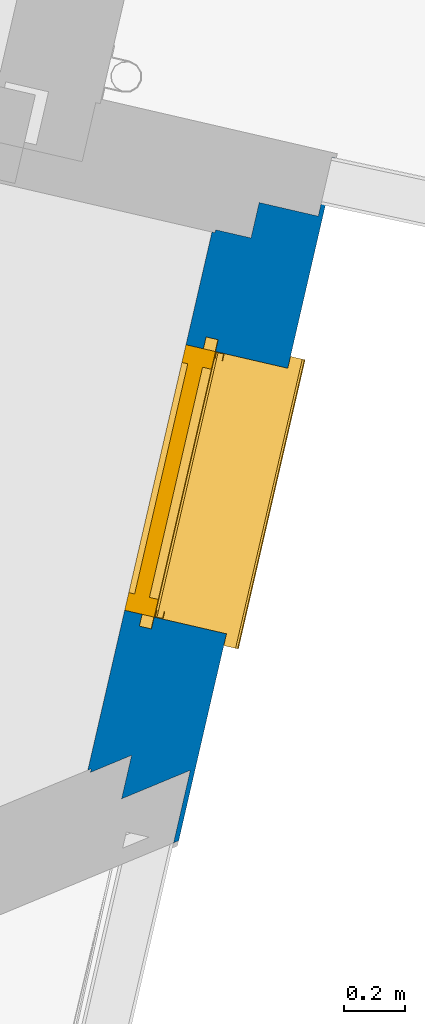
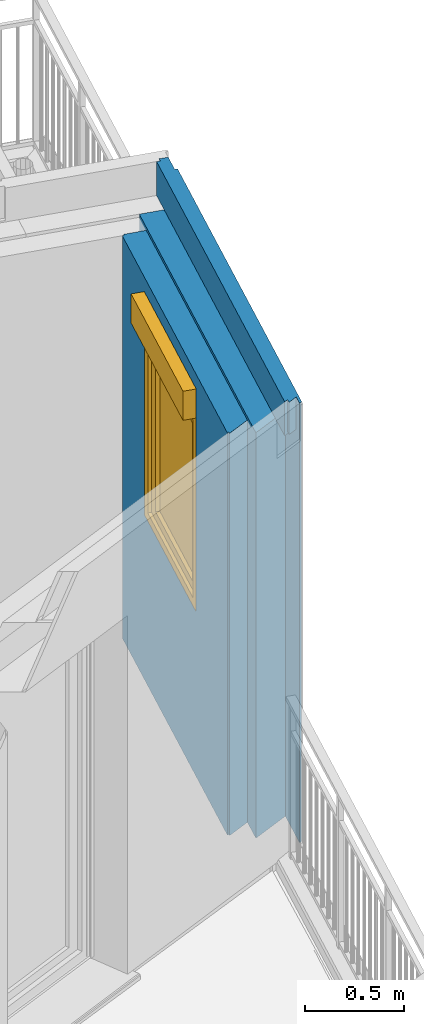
# One storey, part 19 of 90: 1 wall, 1 window, 1 opening.
"""IFC2X3 building model written with IfcOpenShell, lengths in metres."""

from ifc_helpers import new_model, entity, si_unit, converted_unit, derived_unit, money_unit, direction, frame, origin_with_axes, place, context, subcontext, project, spatial, open_shell, faceted_brep, surface_model, source, transform, mapped, material, material_list, type_object, element, fill, save


model = new_model("IFC2X3")

# Units and contexts
model_context = context("Model", 3, precision=1e-05, world=origin_with_axes(), true_north=direction((0.0, 1.0)))
body_context = subcontext(model_context, "Body", "Model", "MODEL_VIEW")
ifc_project = project(units=[si_unit("LENGTHUNIT", "METRE"), si_unit("AREAUNIT", "SQUARE_METRE"), si_unit("VOLUMEUNIT", "CUBIC_METRE"), converted_unit("PLANEANGLEUNIT", "DEGREE", entity("IfcPlaneAngleMeasure", 0.0174532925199), si_unit("PLANEANGLEUNIT", "RADIAN"), dimensions=[0, 0, 0, 0, 0, 0, 0]), si_unit("SOLIDANGLEUNIT", "STERADIAN"), money_unit("EUR"), converted_unit("TIMEUNIT", "Year", entity("IfcTimeMeasure", 31556926.0), si_unit("TIMEUNIT", "SECOND"), dimensions=[0, 0, 1, 0, 0, 0, 0]), si_unit("MASSUNIT", "GRAM", prefix="KILO"), si_unit("THERMODYNAMICTEMPERATUREUNIT", "DEGREE_CELSIUS"), si_unit("LUMINOUSINTENSITYUNIT", "LUMEN"), si_unit("ENERGYUNIT", "JOULE", prefix="MEGA"), derived_unit("THERMALCONDUCTANCEUNIT", [(si_unit("POWERUNIT", "WATT"), 1), (si_unit("LENGTHUNIT", "METRE"), -1), (si_unit("THERMODYNAMICTEMPERATUREUNIT", "KELVIN"), -1)]), derived_unit("SPECIFICHEATCAPACITYUNIT", [(si_unit("ENERGYUNIT", "JOULE"), 1), (si_unit("MASSUNIT", "GRAM", prefix="KILO"), -1), (si_unit("THERMODYNAMICTEMPERATUREUNIT", "KELVIN"), -1)]), derived_unit("MASSDENSITYUNIT", [(si_unit("MASSUNIT", "GRAM", prefix="KILO"), 1), (si_unit("VOLUMEUNIT", "CUBIC_METRE"), -1)])], contexts=[model_context])

# Site, building, storey
site_placement = place(None, origin_with_axes())
site = spatial("IfcSite", under=ifc_project, at=site_placement, Name="Site", CompositionType="ELEMENT")
building_placement = place(site_placement, origin_with_axes())
building = spatial("IfcBuilding", under=site, at=building_placement, Name="Bâtiment", CompositionType="ELEMENT")
storey_placement = place(building_placement, frame((0.0, 0.0, 2.72), z_axis=(0.0, 0.0, 1.0), x_axis=(1.0, 0.0, 0.0)))
storey = spatial("IfcBuildingStorey", under=building, at=storey_placement, Name="R+1", CompositionType="ELEMENT", Elevation=2.72)

# Wall, opening, window
ifc_material_1 = material(Name="Finition ext - Crépis")
ifc_material_2 = material(Name="Béton cellulaire")
ifc_material_3 = material(Name="Mortier")
ifc_material_4 = material(Name="Isolation - Polystyrène expansé")
ifc_material_5 = material(Name="Bloc ELITHERM")
ifc_material_6 = material(Name="Isolation - Polystyrène extrudé")
ifc_material_7 = material(Name="Finition int - Plaque de plâtre")
ifc_material_list = material_list([ifc_material_1, ifc_material_2, ifc_material_3, ifc_material_4, ifc_material_5, ifc_material_6, ifc_material_7])
wall_type = type_object("IfcWallType", Name="Mur ALKERN + planelle 21 345 x 2720", PredefinedType="USERDEFINED")
wall_placement = place(storey_placement, frame((-7.09774602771, -17.8354511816, 0.0), z_axis=(0.0, 0.0, 1.0), x_axis=(-0.224876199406, -0.974387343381, 0.0)))
wall = element("IfcWall", 1, at=wall_placement, inside=storey, type_object=wall_type, material=ifc_material_list, Name="Mue bloc ALKERN isolé", ObjectType="SOLIDWALL", context=body_context, shape_type="Brep", body=[
    faceted_brep([(0.726995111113, -0.0149999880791, 1.02), (0.726995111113, 0.0, 1.02), (0.726995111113, 0.0, 2.22), (0.726995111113, -0.0149999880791, 2.22), (0.726995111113, 0.0, 0.96), (0.726995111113, -0.015, 0.96), (0.140032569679, 0.0, 2.5), (0.159776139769, 0.0, 2.5), (0.174778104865, 0.0, 2.5), (0.174778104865, 0.0, 2.50872065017), (0.174778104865, 0.0, 2.50999999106), (0.174778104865, 0.0, 2.51999999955), (0.174778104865, 0.0, 2.72), (2.32828206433, 0.0, 2.72), (2.32828206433, 0.0, 2.51999999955), (2.32828206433, 0.0, 2.50999999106), (2.32828206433, 0.0, 0.0), (0.175425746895, 0.0, 0.0), (0.175425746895, 0.0, 0.01), (0.165443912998, 0.0, 0.0193762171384), (0.0253866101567, 0.0, 0.0106237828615), (0.0154047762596, 0.0, 0.0), (0.0149999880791, -7.00355062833e-09, 0.0), (0.0149999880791, -7.00355062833e-09, 2.5), (1.62699511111, 0.0, 0.96), (1.62699511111, 0.0, 1.02), (1.62699511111, 0.0, 2.22), (1.62699511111, -0.0149999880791, 2.22), (0.0156476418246, -0.0149999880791, 0.0), (0.0256294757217, -0.0149999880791, 0.0106237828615), (0.165686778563, -0.0149999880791, 0.0193762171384), (0.175668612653, -0.015, 0.01), (0.175668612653, -0.015, 0.0), (2.33899022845, -0.0149999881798, 0.0), (2.33899022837, -0.0149999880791, 2.50999999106), (2.33899022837, -0.0149999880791, 2.51999999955), (2.33899022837, -0.0149999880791, 2.72), (0.17502097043, -0.0149999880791, 2.72), (0.17502097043, -0.0149999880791, 2.51999999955), (0.17502097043, -0.0149999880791, 2.50999999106), (0.17502097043, -0.0149999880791, 2.50872065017), (0.17502097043, -0.0149999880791, 2.5), (0.160019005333, -0.0149999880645, 2.5), (0.140275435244, -0.0149999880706, 2.5), (0.0149999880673, -0.0149999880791, 2.5), (0.0149999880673, -0.0149999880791, 0.0), (1.62699511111, -0.0149999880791, 1.02), (1.62699511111, -0.015, 0.96)], [[[0, 1, 2, 3]], [[4, 1, 0, 5]], [[6, 7, 8, 9, 10, 11, 12, 13, 14, 15, 16, 17, 18, 19, 20, 21, 22, 23], [24, 25, 26, 2, 1, 4]], [[26, 27, 3, 2]], [[28, 29, 30, 31, 32, 33, 34, 35, 36, 37, 38, 39, 40, 41, 42, 43, 44, 45], [5, 0, 3, 27, 46, 47]], [[24, 4, 5, 47]], [[43, 42, 7, 6]], [[42, 41, 8, 7]], [[9, 8, 41, 40]], [[10, 9, 40, 39]], [[11, 10, 39, 38]], [[12, 11, 38, 37]], [[13, 12, 37, 36]], [[13, 36, 35, 14]], [[35, 34, 15, 14]], [[34, 33, 16, 15]], [[33, 32, 17, 16]], [[17, 32, 31, 18]], [[18, 31, 30, 19]], [[19, 30, 29, 20]], [[21, 20, 29, 28]], [[22, 21, 28, 45]], [[23, 22, 45, 44]], [[44, 43, 6, 23]], [[46, 25, 24, 47]], [[25, 46, 27, 26]]]),
    faceted_brep([(2.31428036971, -0.0629999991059, 2.72), (2.28001421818, -0.015, 2.72), (0.0629999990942, -0.015, 2.72), (0.0629999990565, -0.0629999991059, 2.72), (2.28001421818, -0.015, 2.51999999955), (2.31428036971, -0.0629999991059, 2.51999999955), (0.0629999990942, -0.015, 2.51999999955), (0.0629999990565, -0.0629999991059, 2.51999999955)], [[[0, 1, 2, 3]], [[4, 1, 0, 5]], [[1, 4, 6, 2]], [[3, 2, 6, 7]], [[5, 0, 3, 7]], [[4, 5, 7, 6]]]),
    faceted_brep([(2.30398459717, -0.083, 2.52), (2.25544088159, -0.015, 2.52), (0.0829999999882, -0.015, 2.52), (0.0829999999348, -0.083, 2.52), (2.25544088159, -0.015, 2.51), (2.30398459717, -0.083, 2.51), (0.0829999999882, -0.015, 2.51), (0.0829999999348, -0.083, 2.51)], [[[0, 1, 2, 3]], [[4, 1, 0, 5]], [[1, 4, 6, 2]], [[3, 2, 6, 7]], [[5, 0, 3, 7]], [[4, 5, 7, 6]]]),
    faceted_brep([(0.0830000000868, -0.083000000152, 2.72), (2.30398459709, -0.083000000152, 2.72), (2.28970703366, -0.0630000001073, 2.72), (0.0830000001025, -0.0630000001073, 2.72), (0.0830000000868, -0.083000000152, 2.51999999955), (2.30398459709, -0.083000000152, 2.51999999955), (2.28970703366, -0.0630000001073, 2.51999999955), (0.0830000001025, -0.0630000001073, 2.51999999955)], [[[0, 1, 2, 3]], [[4, 5, 1, 0]], [[5, 6, 2, 1]], [[3, 2, 6, 7]], [[4, 0, 3, 7]], [[7, 6, 5, 4]]]),
    faceted_brep([(0.726995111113, -0.214999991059, 1.02), (0.726995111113, -0.214999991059, 0.96), (0.726995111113, -0.015, 0.96), (0.726995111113, -0.015, 1.02), (0.726995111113, -0.015, 2.22), (0.726995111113, -0.214999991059, 2.22), (0.214999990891, -0.214999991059, 2.50999999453), (0.214999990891, -0.214999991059, 0.0), (2.23603250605, -0.214999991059, 0.0), (2.23603250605, -0.214999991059, 2.50999999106), (1.62699511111, -0.214999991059, 2.22), (1.62699511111, -0.214999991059, 1.02), (1.62699511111, -0.214999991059, 0.96), (1.62699511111, -0.015, 0.96), (0.214999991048, -0.015, 0.0), (0.214999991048, -0.015, 2.50999999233), (2.09325687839, -0.015, 2.50999999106), (2.09325687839, -0.015, 0.0), (1.62699511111, -0.015, 1.02), (1.62699511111, -0.015, 2.22), (0.214999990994, -0.0829999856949, 2.50999999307), (2.14180058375, -0.0829999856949, 2.50999999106)], [[[0, 1, 2, 3, 4, 5]], [[6, 7, 8, 9], [1, 0, 5, 10, 11, 12]], [[13, 2, 1, 12]], [[14, 15, 16, 17], [13, 18, 19, 4, 3, 2]], [[19, 10, 5, 4]], [[6, 20, 15, 14, 7]], [[7, 14, 17, 8]], [[8, 17, 16, 21, 9]], [[20, 6, 9, 21]], [[18, 13, 12, 11, 10, 19]], [[15, 20, 21, 16]]]),
    faceted_brep([(0.726995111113, -0.245, 1.02), (0.726995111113, -0.214999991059, 1.02), (0.726995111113, -0.215, 2.22), (0.726995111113, -0.245, 2.22), (0.726995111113, -0.215000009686, 0.96), (0.726995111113, -0.286, 1.02), (0.726995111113, -0.286, 0.96), (0.335000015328, -0.214999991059, 2.49), (2.08859247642, -0.214999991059, 2.49), (2.08859247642, -0.215000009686, 0.0), (0.335000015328, -0.215000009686, 0.0), (1.62699511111, -0.215000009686, 0.96), (1.62699511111, -0.214999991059, 1.02), (1.62699511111, -0.215, 2.22), (1.62699511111, -0.215, 2.4), (0.726995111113, -0.215, 2.4), (0.726995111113, -0.335000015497, 2.4), (0.726995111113, -0.335000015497, 2.22), (0.726995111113, -0.335000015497, 1.02), (1.62699511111, -0.286, 1.02), (1.62699511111, -0.286, 0.96), (0.335000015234, -0.335000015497, 2.49), (2.174257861, -0.335000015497, 2.49), (2.174257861, -0.335000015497, 0.0), (0.335000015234, -0.335000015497, 0.0), (1.62699511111, -0.245, 1.02), (1.62699511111, -0.245, 2.22), (1.62699511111, -0.335000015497, 2.22), (1.62699511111, -0.335000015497, 2.4), (1.62699511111, -0.335000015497, 1.02)], [[[0, 1, 2, 3]], [[4, 1, 0, 5, 6]], [[7, 8, 9, 10], [11, 12, 13, 14, 15, 2, 1, 4]], [[16, 17, 3, 2, 15]], [[5, 0, 3, 17, 18]], [[5, 19, 20, 6]], [[11, 4, 6, 20]], [[8, 7, 21, 22]], [[8, 22, 23, 9]], [[10, 9, 23, 24]], [[21, 7, 10, 24]], [[25, 12, 11, 20, 19]], [[12, 25, 26, 13]], [[26, 27, 28, 14, 13]], [[14, 28, 16, 15]], [[22, 21, 24, 23], [18, 17, 16, 28, 27, 29]], [[19, 5, 18, 29]], [[25, 19, 29, 27, 26]]]),
    faceted_brep([(2.16197122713, -0.335000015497, 0.0), (0.344999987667, -0.335000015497, 0.0), (0.344999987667, -0.335000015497, 2.49), (2.16197122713, -0.335000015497, 2.49), (1.62699511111, -0.335000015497, 2.22), (1.62699511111, -0.335000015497, 2.4), (0.726995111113, -0.335000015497, 2.4), (0.726995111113, -0.335000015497, 2.22), (0.726995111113, -0.335000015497, 1.02), (1.62699511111, -0.335000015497, 1.02), (2.16910998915, -0.34499998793, 0.0), (0.344999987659, -0.34499998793, 0.0), (0.344999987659, -0.34499998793, 2.49), (2.16910998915, -0.34499998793, 2.49), (1.62699511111, -0.34499998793, 2.22), (1.62699511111, -0.34499998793, 2.4), (0.726995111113, -0.34499998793, 2.4), (0.726995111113, -0.34499998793, 2.22), (0.726995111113, -0.34499998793, 1.02), (1.62699511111, -0.34499998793, 1.02)], [[[0, 1, 2, 3], [4, 5, 6, 7, 8, 9]], [[10, 11, 1, 0]], [[1, 11, 12, 2]], [[12, 13, 3, 2]], [[10, 0, 3, 13]], [[5, 4, 14, 15]], [[6, 5, 15, 16]], [[7, 6, 16, 17]], [[7, 17, 18, 8]], [[8, 18, 19, 9]], [[14, 4, 9, 19]], [[11, 10, 13, 12], [15, 14, 19, 18, 17, 16]]]),
])
opening_placement = place(wall_placement, frame((1.17699511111, 0.0, 1.02), z_axis=(0.0, 0.0, 1.0), x_axis=(1.0, 0.0, 0.0)))
opening = element("IfcOpeningElement", 2, at=opening_placement, cuts=wall, Name="MEN 61", context=body_context, shape_type="Brep", body=[
    faceted_brep([(-0.45, -0.245, 0.0), (0.45, -0.245, 0.0), (0.45, -0.83499998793, 0.0), (-0.45, -0.83499998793, 0.0), (-0.45, -0.245, 1.2), (0.45, -0.245, 1.2), (0.45, -0.83499998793, 1.2), (-0.45, -0.83499998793, 1.2)], [[[0, 1, 2, 3]], [[0, 4, 5, 1]], [[1, 5, 6, 2]], [[3, 2, 6, 7]], [[4, 0, 3, 7]], [[5, 4, 7, 6]]]),
    faceted_brep([(-0.45, -0.245, 0.0), (-0.45, -0.245, 1.2), (-0.45, 0.34499998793, 1.2), (-0.45, 0.34499998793, 0.0), (0.45, -0.245, 0.0), (0.45, -0.245, 1.2), (0.45, 0.34499998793, 1.2), (0.45, 0.34499998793, 0.0)], [[[0, 1, 2, 3]], [[0, 4, 5, 1]], [[1, 5, 6, 2]], [[3, 2, 6, 7]], [[4, 0, 3, 7]], [[5, 4, 7, 6]]]),
    faceted_brep([(-0.45, -0.245, 0.0), (-0.45, -0.245, 1.2), (-0.45, 0.34499998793, 1.2), (-0.45, 0.34499998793, 0.0), (0.45, -0.245, 0.0), (0.45, -0.245, 1.2), (0.45, 0.34499998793, 1.2), (0.45, 0.34499998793, 0.0)], [[[0, 1, 2, 3]], [[0, 4, 5, 1]], [[1, 5, 6, 2]], [[3, 2, 6, 7]], [[4, 0, 3, 7]], [[5, 4, 7, 6]]]),
    faceted_brep([(-0.45, -0.215, 1.2), (0.45, -0.215, 1.2), (0.45, -0.80499998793, 1.2), (-0.45, -0.80499998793, 1.2), (-0.45, -0.215, 1.38), (0.45, -0.215, 1.38), (0.45, -0.80499998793, 1.38), (-0.45, -0.80499998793, 1.38)], [[[0, 1, 2, 3]], [[0, 4, 5, 1]], [[1, 5, 6, 2]], [[3, 2, 6, 7]], [[4, 0, 3, 7]], [[5, 4, 7, 6]]]),
    faceted_brep([(-0.45, -0.286, 0.0), (0.45, -0.286, 0.0), (0.45, 0.30399998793, 0.0), (-0.45, 0.30399998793, 0.0), (-0.45, -0.286, -0.06), (0.45, -0.286, -0.06), (0.45, 0.30399998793, -0.06), (-0.45, 0.30399998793, -0.06)], [[[0, 1, 2, 3]], [[0, 4, 5, 1]], [[1, 5, 6, 2]], [[3, 2, 6, 7]], [[4, 0, 3, 7]], [[5, 4, 7, 6]]]),
])
window_style = type_object("IfcWindowStyle", Name="Baie générique 2017 v2", ConstructionType="NOTDEFINED", OperationType="NOTDEFINED", ParameterTakesPrecedence=False, Sizeable=False)
shared_shape = source(origin_with_axes(), body_context, "Body", "SurfaceModel", [
    faceted_brep([(0.45, 0.1, 0.0), (0.45, 0.0, 0.0), (-0.45, 0.0, 0.0), (-0.45, 0.1, 0.0), (0.45, 0.1, 1.2), (0.45, 0.0, 1.2), (-0.45, 0.0, 1.2), (0.39, 0.0, 0.05), (-0.39, 0.0, 0.05), (-0.39, 0.0, 1.15), (0.39, 0.0, 1.15), (-0.45, 0.1, 1.2), (0.39, 0.1, 0.05), (0.39, 0.1, 1.15), (-0.39, 0.1, 1.15), (-0.39, 0.1, 0.05)], [[[0, 1, 2, 3]], [[4, 5, 1, 0]], [[1, 5, 6, 2], [7, 8, 9, 10]], [[3, 2, 6, 11]], [[0, 3, 11, 4], [12, 13, 14, 15]], [[11, 6, 5, 4]], [[15, 8, 7, 12]], [[14, 9, 8, 15]], [[13, 10, 9, 14]], [[12, 7, 10, 13]]]),
    faceted_brep([(-0.39, 0.08, 1.15), (0.39, 0.08, 1.15), (0.39, 0.08, 0.05), (-0.39, 0.08, 0.05), (-0.32, 0.08, 1.08), (-0.32, 0.08, 0.1), (0.32, 0.08, 0.1), (0.32, 0.08, 1.08), (-0.39, 0.03, 1.15), (0.39, 0.03, 1.15), (0.39, 0.03, 0.05), (-0.39, 0.03, 0.05), (-0.32, 0.03, 1.08), (-0.32, 0.03, 0.1), (0.32, 0.03, 0.1), (0.32, 0.03, 1.08)], [[[0, 1, 2, 3], [4, 5, 6, 7]], [[0, 8, 9, 1]], [[9, 10, 2, 1]], [[10, 11, 3, 2]], [[3, 11, 8, 0]], [[4, 12, 13, 5]], [[13, 14, 6, 5]], [[14, 15, 7, 6]], [[7, 15, 12, 4]], [[9, 8, 11, 10], [13, 12, 15, 14]]]),
    surface_model("IfcShellBasedSurfaceModel", [(0.39, 0.08, 0.05), (0.39, 0.08, 1.15), (0.39, 0.055, 1.15), (0.39, 0.055, 0.05)], [open_shell([[[0, 1, 2, 3]]])]),
    surface_model("IfcShellBasedSurfaceModel", [(-0.39, 0.08, 0.05), (-0.39, 0.08, 1.15), (-0.39, 0.055, 1.15), (-0.39, 0.055, 0.05)], [open_shell([[[0, 1, 2, 3]]])]),
    surface_model("IfcShellBasedSurfaceModel", [(0.39, 0.08, 0.05), (-0.39, 0.08, 0.05), (-0.39, 0.055, 0.05), (0.39, 0.055, 0.05)], [open_shell([[[0, 1, 2, 3]]])]),
    surface_model("IfcShellBasedSurfaceModel", [(0.39, 0.08, 1.15), (-0.39, 0.08, 1.15), (-0.39, 0.055, 1.15), (0.39, 0.055, 1.15)], [open_shell([[[0, 1, 2, 3]]])]),
    surface_model("IfcShellBasedSurfaceModel", [(0.39, 0.055, 0.05), (0.39, 0.055, 1.15), (0.39, 0.03, 1.15), (0.39, 0.03, 0.05)], [open_shell([[[0, 1, 2, 3]]])]),
    surface_model("IfcShellBasedSurfaceModel", [(-0.39, 0.055, 0.05), (-0.39, 0.055, 1.15), (-0.39, 0.03, 1.15), (-0.39, 0.03, 0.05)], [open_shell([[[0, 1, 2, 3]]])]),
    surface_model("IfcShellBasedSurfaceModel", [(0.39, 0.055, 0.05), (-0.39, 0.055, 0.05), (-0.39, 0.03, 0.05), (0.39, 0.03, 0.05)], [open_shell([[[0, 1, 2, 3]]])]),
    surface_model("IfcShellBasedSurfaceModel", [(0.39, 0.055, 1.15), (-0.39, 0.055, 1.15), (-0.39, 0.03, 1.15), (0.39, 0.03, 1.15)], [open_shell([[[0, 1, 2, 3]]])]),
    faceted_brep([(0.32, 0.0575, 0.1), (0.32, 0.0525, 0.1), (-0.32, 0.0525, 0.1), (-0.32, 0.0575, 0.1), (0.32, 0.0575, 1.08), (0.32, 0.0525, 1.08), (-0.32, 0.0525, 1.08), (-0.32, 0.0575, 1.08)], [[[0, 1, 2, 3]], [[4, 5, 1, 0]], [[1, 5, 6, 2]], [[3, 2, 6, 7]], [[0, 3, 7, 4]], [[7, 6, 5, 4]]]),
    faceted_brep([(0.45, -0.03, 0.0), (0.45, -0.03, 1.2), (0.425, -0.03, 1.2), (0.425, -0.03, 0.0), (0.45, -0.002, 0.0), (0.45, -0.002, 1.2), (0.425, -0.002, 1.2), (0.425, -0.004, 1.2), (0.448, -0.004, 1.2), (0.448, -0.028, 1.2), (0.425, -0.028, 1.2), (0.425, -0.028, 0.0), (0.448, -0.028, 0.0), (0.448, -0.004, 0.0), (0.425, -0.004, 0.0), (0.425, -0.002, 0.0)], [[[0, 1, 2, 3]], [[4, 5, 1, 0]], [[1, 5, 6, 7, 8, 9, 10, 2]], [[3, 2, 10, 11]], [[0, 3, 11, 12, 13, 14, 15, 4]], [[15, 6, 5, 4]], [[14, 7, 6, 15]], [[13, 8, 7, 14]], [[12, 9, 8, 13]], [[11, 10, 9, 12]]]),
    faceted_brep([(-0.45, -0.03, 0.0), (-0.425, -0.03, 0.0), (-0.425, -0.03, 1.2), (-0.45, -0.03, 1.2), (-0.45, -0.002, 0.0), (-0.425, -0.002, 0.0), (-0.425, -0.004, 0.0), (-0.448, -0.004, 0.0), (-0.448, -0.028, 0.0), (-0.425, -0.028, 0.0), (-0.425, -0.028, 1.2), (-0.448, -0.028, 1.2), (-0.448, -0.004, 1.2), (-0.425, -0.004, 1.2), (-0.425, -0.002, 1.2), (-0.45, -0.002, 1.2)], [[[0, 1, 2, 3]], [[0, 4, 5, 6, 7, 8, 9, 1]], [[1, 9, 10, 2]], [[3, 2, 10, 11, 12, 13, 14, 15]], [[4, 0, 3, 15]], [[5, 4, 15, 14]], [[6, 5, 14, 13]], [[7, 6, 13, 12]], [[8, 7, 12, 11]], [[9, 8, 11, 10]]]),
    faceted_brep([(-0.448, -0.028, 1.2), (-0.448, -0.028, 1.378), (0.448, -0.028, 1.378), (0.448, -0.028, 1.2), (-0.448, -0.03, 1.2), (-0.448, -0.03, 1.38), (-0.448, 0.17, 1.38), (-0.448, 0.17, 1.2), (-0.448, 0.168, 1.2), (-0.448, 0.168, 1.378), (0.448, 0.168, 1.378), (0.448, 0.168, 1.2), (0.448, 0.17, 1.2), (0.448, 0.17, 1.38), (0.448, -0.03, 1.38), (0.448, -0.03, 1.2)], [[[0, 1, 2, 3]], [[0, 4, 5, 6, 7, 8, 9, 1]], [[1, 9, 10, 2]], [[3, 2, 10, 11, 12, 13, 14, 15]], [[4, 0, 3, 15]], [[5, 4, 15, 14]], [[6, 5, 14, 13]], [[7, 6, 13, 12]], [[8, 7, 12, 11]], [[9, 8, 11, 10]]]),
    faceted_brep([(-0.448, 0.0724697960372, 1.27436337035), (-0.448, 0.0555495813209, 1.27050144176), (-0.448, 0.041980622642, 1.28132232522), (-0.448, 0.041980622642, 1.29867767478), (-0.448, 0.0555495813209, 1.30949855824), (-0.448, 0.0724697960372, 1.30563662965), (-0.448, 0.08, 1.29), (0.448, 0.0724697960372, 1.27436337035), (0.448, 0.0555495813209, 1.27050144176), (0.448, 0.041980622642, 1.28132232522), (0.448, 0.041980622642, 1.29867767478), (0.448, 0.0555495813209, 1.30949855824), (0.448, 0.0724697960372, 1.30563662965), (0.448, 0.08, 1.29)], [[[0, 1, 2, 3, 4, 5, 6]], [[1, 0, 7, 8]], [[2, 1, 8, 9]], [[3, 2, 9, 10]], [[4, 3, 10, 11]], [[5, 4, 11, 12]], [[6, 5, 12, 13]], [[0, 6, 13, 7]], [[7, 13, 12, 11, 10, 9, 8]]]),
    faceted_brep([(-0.438, 0.130275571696, 1.25615706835), (-0.438, 0.108632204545, 1.22901714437), (-0.438, 0.0773566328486, 1.21395562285), (-0.438, 0.0426433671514, 1.21395562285), (-0.438, 0.011367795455, 1.22901714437), (-0.438, -0.0102755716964, 1.25615706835), (-0.438, -0.018, 1.29), (-0.438, -0.0102755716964, 1.32384293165), (-0.438, 0.011367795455, 1.35098285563), (-0.438, 0.0426433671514, 1.36604437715), (-0.438, 0.0773566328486, 1.36604437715), (-0.438, 0.108632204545, 1.35098285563), (-0.438, 0.130275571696, 1.32384293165), (-0.438, 0.138, 1.29), (0.438, 0.130275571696, 1.25615706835), (0.438, 0.108632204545, 1.22901714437), (0.438, 0.0773566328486, 1.21395562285), (0.438, 0.0426433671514, 1.21395562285), (0.438, 0.011367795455, 1.22901714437), (0.438, -0.0102755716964, 1.25615706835), (0.438, -0.018, 1.29), (0.438, -0.0102755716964, 1.32384293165), (0.438, 0.011367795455, 1.35098285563), (0.438, 0.0426433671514, 1.36604437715), (0.438, 0.0773566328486, 1.36604437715), (0.438, 0.108632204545, 1.35098285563), (0.438, 0.130275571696, 1.32384293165), (0.438, 0.138, 1.29)], [[[0, 1, 2, 3, 4, 5, 6, 7, 8, 9, 10, 11, 12, 13]], [[1, 0, 14, 15]], [[2, 1, 15, 16]], [[3, 2, 16, 17]], [[4, 3, 17, 18]], [[5, 4, 18, 19]], [[6, 5, 19, 20]], [[7, 6, 20, 21]], [[8, 7, 21, 22]], [[9, 8, 22, 23]], [[10, 9, 23, 24]], [[11, 10, 24, 25]], [[12, 11, 25, 26]], [[13, 12, 26, 27]], [[0, 13, 27, 14]], [[14, 27, 26, 25, 24, 23, 22, 21, 20, 19, 18, 17, 16, 15]]]),
    faceted_brep([(-0.45, 0.17, 1.2), (-0.45, 0.17, 1.38), (-0.448, 0.17, 1.38), (-0.448, 0.17, 1.2), (-0.45, -0.03, 1.2), (-0.45, -0.03, 1.38), (-0.448, -0.03, 1.38), (-0.448, -0.03, 1.2)], [[[0, 1, 2, 3]], [[0, 4, 5, 1]], [[1, 5, 6, 2]], [[3, 2, 6, 7]], [[4, 0, 3, 7]], [[5, 4, 7, 6]]]),
    faceted_brep([(0.448, 0.17, 1.2), (0.448, 0.17, 1.38), (0.45, 0.17, 1.38), (0.45, 0.17, 1.2), (0.448, -0.03, 1.2), (0.448, -0.03, 1.38), (0.45, -0.03, 1.38), (0.45, -0.03, 1.2)], [[[0, 1, 2, 3]], [[0, 4, 5, 1]], [[1, 5, 6, 2]], [[3, 2, 6, 7]], [[4, 0, 3, 7]], [[5, 4, 7, 6]]]),
    faceted_brep([(-0.448, -0.004, 1.2), (-0.448, 0.168, 1.2), (0.448, 0.168, 1.2), (0.448, -0.004, 1.2), (-0.448, -0.004, 1.202), (-0.448, 0.168, 1.202), (0.448, 0.168, 1.202), (0.448, -0.004, 1.202)], [[[0, 1, 2, 3]], [[0, 4, 5, 1]], [[1, 5, 6, 2]], [[3, 2, 6, 7]], [[4, 0, 3, 7]], [[5, 4, 7, 6]]]),
    faceted_brep([(-0.438, -0.006, 1.2), (-0.438, -0.006, 1.29), (0.438, -0.006, 1.29), (0.438, -0.006, 1.2), (-0.438, -0.026, 1.2), (-0.438, -0.026, 1.29), (0.438, -0.026, 1.29), (0.438, -0.026, 1.2)], [[[0, 1, 2, 3]], [[1, 0, 4, 5]], [[2, 1, 5, 6]], [[3, 2, 6, 7]], [[4, 0, 3, 7]], [[5, 4, 7, 6]]]),
    faceted_brep([(-0.45, -0.00167949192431, -0.01), (0.45, -0.00167949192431, -0.01), (0.45, 0.0, -0.00373205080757), (0.49, 0.0, -0.00373205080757), (0.49, 0.001, 0.0), (-0.49, 0.001, 0.0), (-0.49, 0.0, -0.00373205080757), (-0.45, 0.0, -0.00373205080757), (-0.45, -0.009, -0.0173205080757), (0.45, -0.009, -0.0173205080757), (0.45, -0.245, -0.02), (0.45, -0.245, -0.06), (0.45, 0.0, -0.06), (0.45, -0.019, -0.02), (0.49, 0.0, -0.06), (0.49, 0.041, -0.06), (0.49, 0.041, 0.0), (-0.49, 0.041, 0.0), (-0.49, 0.041, -0.06), (-0.49, 0.0, -0.06), (-0.45, 0.0, -0.06), (-0.45, -0.245, -0.06), (-0.45, -0.245, -0.02), (-0.45, -0.019, -0.02), (0.49, -0.245, -0.02), (0.49, -0.245, -0.06), (0.49, -0.275, -0.06), (-0.49, -0.275, -0.06), (-0.49, -0.245, -0.06), (-0.49, -0.245, -0.02), (-0.49, -0.285, -0.02), (0.49, -0.285, -0.02), (0.49, -0.295, -0.03), (0.49, -0.295, -0.06), (0.49, -0.285, -0.06), (0.49, -0.285, -0.05), (0.49, -0.275, -0.05), (0.49, -0.292071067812, -0.0229289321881), (-0.49, -0.275, -0.05), (-0.49, -0.285, -0.05), (-0.49, -0.285, -0.06), (-0.49, -0.295, -0.06), (-0.49, -0.295, -0.03), (-0.49, -0.292071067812, -0.0229289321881)], [[[0, 1, 2, 3, 4, 5, 6, 7]], [[8, 9, 1, 0]], [[10, 11, 12, 2, 1, 9, 13]], [[3, 2, 12, 14]], [[4, 3, 14, 15, 16]], [[16, 17, 5, 4]], [[6, 5, 17, 18, 19]], [[19, 20, 7, 6]], [[7, 20, 21, 22, 23, 8, 0]], [[23, 13, 9, 8]], [[10, 24, 25, 11]], [[21, 20, 19, 18, 15, 14, 12, 11, 25, 26, 27, 28]], [[22, 29, 30, 31, 24, 10, 13, 23]], [[15, 18, 17, 16]], [[22, 21, 28, 29]], [[32, 33, 34, 35, 36, 26, 25, 24, 31, 37]], [[36, 38, 27, 26]], [[28, 27, 38, 39, 40, 41, 42, 43, 30, 29]], [[31, 30, 43, 37]], [[32, 42, 41, 33]], [[33, 41, 40, 34]], [[34, 40, 39, 35]], [[35, 39, 38, 36]], [[37, 43, 42, 32]]]),
])
window_placement = place(opening_placement, frame((0.45, 0.0, 0.0), z_axis=(0.0, 0.0, 1.0), x_axis=(-1.0, 0.0, 0.0)))
window = element("IfcWindow", 3, at=window_placement, inside=storey, type_object=window_style, Name="MEN 61", ObjectType="WINDOW", OverallHeight=1.2, OverallWidth=0.9, context=body_context, shape_type="MappedRepresentation", body=[
    mapped(shared_shape, transform((0.45, 0.245, 0.0))),
])
fill(opening, window)

save(model, "model.ifc")
